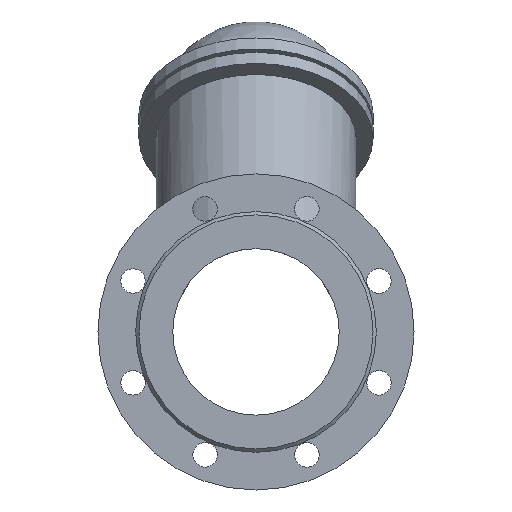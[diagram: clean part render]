
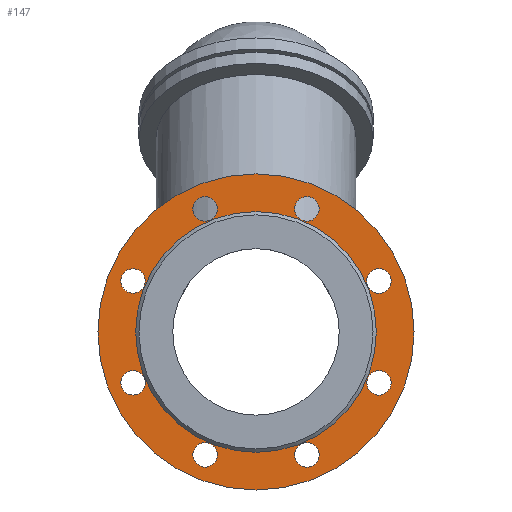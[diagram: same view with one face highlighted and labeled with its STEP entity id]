
A CAD part, front view. The second image highlights one B-rep face of the part: STEP entity #147.
In plain terms, the highlighted planar face has unit normal (0, -1, 0).
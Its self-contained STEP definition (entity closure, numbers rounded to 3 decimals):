
#147=ADVANCED_FACE('',(#553,#555,#557,#559,#561,#563,#565,#567,#569,#571),#573,.T.);
#553=FACE_BOUND('',#554,.T.);
#554=EDGE_LOOP('',(#946));
#555=FACE_BOUND('',#556,.T.);
#556=EDGE_LOOP('',(#947));
#557=FACE_BOUND('',#558,.T.);
#558=EDGE_LOOP('',(#948));
#559=FACE_BOUND('',#560,.T.);
#560=EDGE_LOOP('',(#949));
#561=FACE_BOUND('',#562,.T.);
#562=EDGE_LOOP('',(#950));
#563=FACE_BOUND('',#564,.T.);
#564=EDGE_LOOP('',(#951));
#565=FACE_BOUND('',#566,.T.);
#566=EDGE_LOOP('',(#952));
#567=FACE_BOUND('',#568,.T.);
#568=EDGE_LOOP('',(#953));
#569=FACE_BOUND('',#570,.T.);
#570=EDGE_LOOP('',(#954));
#571=FACE_BOUND('',#572,.T.);
#572=EDGE_LOOP('',(#955));
#573=PLANE('',#574);
#574=AXIS2_PLACEMENT_3D('',#575,#576,#577);
#575=CARTESIAN_POINT('',(0.,-197.,0.));
#576=DIRECTION('',(0.,-1.,0.));
#577=DIRECTION('',(0.,0.,1.));
#946=ORIENTED_EDGE('',*,*,#1072,.F.);
#947=ORIENTED_EDGE('',*,*,#1073,.T.);
#948=ORIENTED_EDGE('',*,*,#1074,.T.);
#949=ORIENTED_EDGE('',*,*,#1075,.T.);
#950=ORIENTED_EDGE('',*,*,#1076,.T.);
#951=ORIENTED_EDGE('',*,*,#1077,.T.);
#952=ORIENTED_EDGE('',*,*,#1078,.T.);
#953=ORIENTED_EDGE('',*,*,#1079,.T.);
#954=ORIENTED_EDGE('',*,*,#1062,.T.);
#955=ORIENTED_EDGE('',*,*,#1080,.T.);
#1062=EDGE_CURVE('',#1152,#1152,#1153,.T.);
#1072=EDGE_CURVE('',#1172,#1172,#1173,.T.);
#1073=EDGE_CURVE('',#1174,#1174,#1175,.F.);
#1074=EDGE_CURVE('',#1176,#1176,#1177,.F.);
#1075=EDGE_CURVE('',#1178,#1178,#1179,.F.);
#1076=EDGE_CURVE('',#1180,#1180,#1181,.F.);
#1077=EDGE_CURVE('',#1182,#1182,#1183,.F.);
#1078=EDGE_CURVE('',#1184,#1184,#1185,.F.);
#1079=EDGE_CURVE('',#1186,#1186,#1187,.F.);
#1080=EDGE_CURVE('',#1188,#1188,#1189,.F.);
#1152=VERTEX_POINT('',#1510);
#1153=CIRCLE('',#1511,108.5);
#1172=VERTEX_POINT('',#1560);
#1173=CIRCLE('',#1561,142.5);
#1174=VERTEX_POINT('',#1565);
#1175=CIRCLE('',#1566,11.);
#1176=VERTEX_POINT('',#1570);
#1177=CIRCLE('',#1571,11.);
#1178=VERTEX_POINT('',#1575);
#1179=CIRCLE('',#1576,11.);
#1180=VERTEX_POINT('',#1580);
#1181=CIRCLE('',#1581,11.);
#1182=VERTEX_POINT('',#1585);
#1183=CIRCLE('',#1586,11.);
#1184=VERTEX_POINT('',#1590);
#1185=CIRCLE('',#1591,11.);
#1186=VERTEX_POINT('',#1595);
#1187=CIRCLE('',#1596,11.);
#1188=VERTEX_POINT('',#1600);
#1189=CIRCLE('',#1601,11.);
#1510=CARTESIAN_POINT('',(0.,-197.,108.5));
#1511=AXIS2_PLACEMENT_3D('',#1512,#1513,#1514);
#1512=CARTESIAN_POINT('',(0.,-197.,0.));
#1513=DIRECTION('',(0.,1.,0.));
#1514=DIRECTION('',(0.,0.,1.));
#1560=CARTESIAN_POINT('',(0.,-197.,142.5));
#1561=AXIS2_PLACEMENT_3D('',#1562,#1563,#1564);
#1562=CARTESIAN_POINT('',(0.,-197.,0.));
#1563=DIRECTION('',(0.,1.,0.));
#1564=DIRECTION('',(0.,0.,1.));
#1565=CARTESIAN_POINT('',(53.7,-197.,103.087));
#1566=AXIS2_PLACEMENT_3D('',#1567,#1568,#1569);
#1567=CARTESIAN_POINT('',(45.922,-197.,110.866));
#1568=DIRECTION('',(0.,-1.,0.));
#1569=DIRECTION('',(0.707,0.,-0.707));
#1570=CARTESIAN_POINT('',(110.866,-197.,34.922));
#1571=AXIS2_PLACEMENT_3D('',#1572,#1573,#1574);
#1572=CARTESIAN_POINT('',(110.866,-197.,45.922));
#1573=DIRECTION('',(0.,-1.,0.));
#1574=DIRECTION('',(0.,0.,-1.));
#1575=CARTESIAN_POINT('',(103.087,-197.,-53.7));
#1576=AXIS2_PLACEMENT_3D('',#1577,#1578,#1579);
#1577=CARTESIAN_POINT('',(110.866,-197.,-45.922));
#1578=DIRECTION('',(0.,-1.,0.));
#1579=DIRECTION('',(-0.707,0.,-0.707));
#1580=CARTESIAN_POINT('',(34.922,-197.,-110.866));
#1581=AXIS2_PLACEMENT_3D('',#1582,#1583,#1584);
#1582=CARTESIAN_POINT('',(45.922,-197.,-110.866));
#1583=DIRECTION('',(0.,-1.,0.));
#1584=DIRECTION('',(-1.,0.,0.));
#1585=CARTESIAN_POINT('',(-53.7,-197.,-103.087));
#1586=AXIS2_PLACEMENT_3D('',#1587,#1588,#1589);
#1587=CARTESIAN_POINT('',(-45.922,-197.,-110.866));
#1588=DIRECTION('',(0.,-1.,0.));
#1589=DIRECTION('',(-0.707,0.,0.707));
#1590=CARTESIAN_POINT('',(-110.866,-197.,-34.922));
#1591=AXIS2_PLACEMENT_3D('',#1592,#1593,#1594);
#1592=CARTESIAN_POINT('',(-110.866,-197.,-45.922));
#1593=DIRECTION('',(0.,-1.,0.));
#1594=DIRECTION('',(0.,0.,1.));
#1595=CARTESIAN_POINT('',(-103.087,-197.,53.7));
#1596=AXIS2_PLACEMENT_3D('',#1597,#1598,#1599);
#1597=CARTESIAN_POINT('',(-110.866,-197.,45.922));
#1598=DIRECTION('',(0.,-1.,0.));
#1599=DIRECTION('',(0.707,0.,0.707));
#1600=CARTESIAN_POINT('',(-34.922,-197.,110.866));
#1601=AXIS2_PLACEMENT_3D('',#1602,#1603,#1604);
#1602=CARTESIAN_POINT('',(-45.922,-197.,110.866));
#1603=DIRECTION('',(0.,-1.,0.));
#1604=DIRECTION('',(1.,0.,0.));
